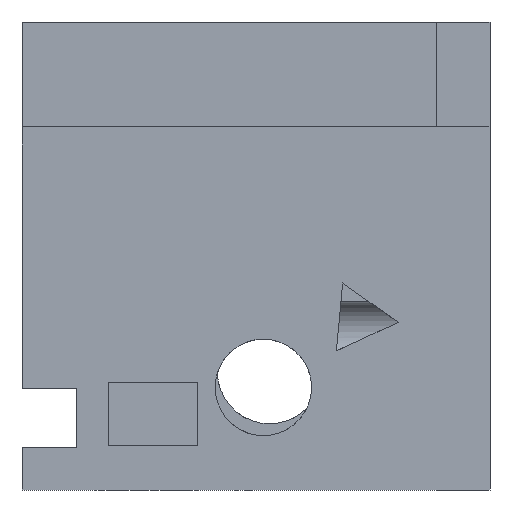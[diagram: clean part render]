
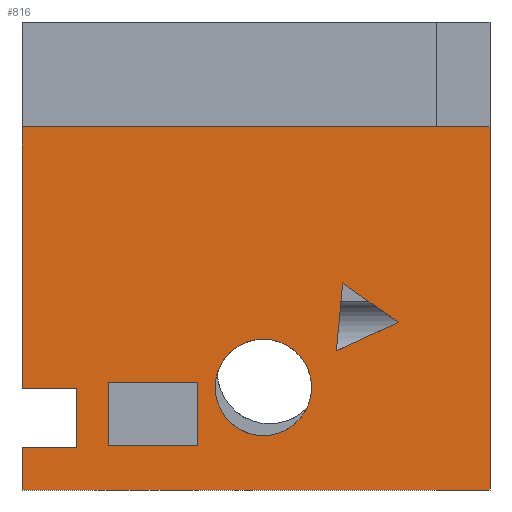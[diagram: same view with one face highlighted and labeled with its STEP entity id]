
A CAD part, front view. The second image highlights one B-rep face of the part: STEP entity #816.
In plain terms, the highlighted planar face has unit normal (0, -1, 0).
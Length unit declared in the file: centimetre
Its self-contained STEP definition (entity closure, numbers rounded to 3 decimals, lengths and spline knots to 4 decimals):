
#6 = DIRECTION ( 'NONE',  ( -1., 0., 0. ) ) ;
#20 = VERTEX_POINT ( 'NONE', #884 ) ;
#25 = EDGE_CURVE ( 'NONE', #1616, #235, #212, .T. ) ;
#36 = DIRECTION ( 'NONE',  ( 0., -1., 0. ) ) ;
#40 = CARTESIAN_POINT ( 'NONE',  ( 1000., 0., 1000. ) ) ;
#41 = LINE ( 'NONE', #197, #540 ) ;
#42 = VECTOR ( 'NONE', #483, 100. ) ;
#59 = CARTESIAN_POINT ( 'NONE',  ( 671.7861, 0., 297.2088 ) ) ;
#78 = VERTEX_POINT ( 'NONE', #594 ) ;
#84 = LINE ( 'NONE', #646, #627 ) ;
#106 = ORIENTED_EDGE ( 'NONE', *, *, #1151, .F. ) ;
#121 = ORIENTED_EDGE ( 'NONE', *, *, #538, .T. ) ;
#129 = VERTEX_POINT ( 'NONE', #472 ) ;
#137 = EDGE_CURVE ( 'NONE', #688, #1069, #1022, .T. ) ;
#148 = ORIENTED_EDGE ( 'NONE', *, *, #162, .F. ) ;
#162 = EDGE_CURVE ( 'NONE', #990, #1413, #903, .T. ) ;
#164 = VECTOR ( 'NONE', #1614, 100. ) ;
#183 = LINE ( 'NONE', #1736, #1355 ) ;
#193 = EDGE_CURVE ( 'NONE', #550, #688, #183, .T. ) ;
#197 = CARTESIAN_POINT ( 'NONE',  ( 184.0551, 0., 230.3611 ) ) ;
#206 = DIRECTION ( 'NONE',  ( -0.092, 0., -0.996 ) ) ;
#208 = EDGE_CURVE ( 'NONE', #1281, #20, #41, .T. ) ;
#212 = CIRCLE ( 'NONE', #336, 103.0713 ) ;
#232 = ORIENTED_EDGE ( 'NONE', *, *, #1261, .T. ) ;
#235 = VERTEX_POINT ( 'NONE', #1739 ) ;
#246 = ORIENTED_EDGE ( 'NONE', *, *, #193, .T. ) ;
#260 = EDGE_CURVE ( 'NONE', #1069, #1118, #893, .T. ) ;
#303 = DIRECTION ( 'NONE',  ( 1., 0., 0. ) ) ;
#310 = DIRECTION ( 'NONE',  ( 0., -1., 0. ) ) ;
#329 = CARTESIAN_POINT ( 'NONE',  ( 0., 0., 1000. ) ) ;
#336 = AXIS2_PLACEMENT_3D ( 'NONE', #1562, #36, #1163 ) ;
#343 = CARTESIAN_POINT ( 'NONE',  ( 0., 0., 0. ) ) ;
#357 = VERTEX_POINT ( 'NONE', #704 ) ;
#382 = CARTESIAN_POINT ( 'NONE',  ( 671.7861, 0., 297.2088 ) ) ;
#395 = VECTOR ( 'NONE', #1815, 100. ) ;
#413 = DIRECTION ( 'NONE',  ( 0., 0., 1. ) ) ;
#435 = VECTOR ( 'NONE', #206, 100. ) ;
#461 = AXIS2_PLACEMENT_3D ( 'NONE', #1820, #552, #413 ) ;
#472 = CARTESIAN_POINT ( 'NONE',  ( 116.2339, 0., 89.9781 ) ) ;
#483 = DIRECTION ( 'NONE',  ( 1., 0., 0. ) ) ;
#492 = LINE ( 'NONE', #1467, #435 ) ;
#538 = EDGE_CURVE ( 'NONE', #129, #1371, #1241, .T. ) ;
#540 = VECTOR ( 'NONE', #1292, 100. ) ;
#548 = CARTESIAN_POINT ( 'NONE',  ( 1000., 0., 775.7278 ) ) ;
#550 = VERTEX_POINT ( 'NONE', #548 ) ;
#552 = DIRECTION ( 'NONE',  ( 0., 1., 0. ) ) ;
#577 = LINE ( 'NONE', #1290, #1769 ) ;
#594 = CARTESIAN_POINT ( 'NONE',  ( 804.1267, 0., 358.1922 ) ) ;
#605 = CARTESIAN_POINT ( 'NONE',  ( 685.1432, 0., 442.3108 ) ) ;
#610 = LINE ( 'NONE', #40, #797 ) ;
#621 = LINE ( 'NONE', #1755, #164 ) ;
#627 = VECTOR ( 'NONE', #1211, 100. ) ;
#632 = LINE ( 'NONE', #778, #1543 ) ;
#646 = CARTESIAN_POINT ( 'NONE',  ( 804.1267, 0., 358.1922 ) ) ;
#671 = EDGE_CURVE ( 'NONE', #966, #357, #577, .T. ) ;
#688 = VERTEX_POINT ( 'NONE', #1713 ) ;
#699 = FACE_BOUND ( 'NONE', #948, .T. ) ;
#704 = CARTESIAN_POINT ( 'NONE',  ( 1000., 0., 0. ) ) ;
#718 = VECTOR ( 'NONE', #1043, 100. ) ;
#736 = EDGE_CURVE ( 'NONE', #235, #1616, #1598, .T. ) ;
#743 = DIRECTION ( 'NONE',  ( -1., 0., 0. ) ) ;
#758 = DIRECTION ( 'NONE',  ( 0., 0., -1. ) ) ;
#769 = ORIENTED_EDGE ( 'NONE', *, *, #137, .T. ) ;
#778 = CARTESIAN_POINT ( 'NONE',  ( 184.0551, 0., 95.36 ) ) ;
#781 = DIRECTION ( 'NONE',  ( 1., 0., 0. ) ) ;
#795 = ORIENTED_EDGE ( 'NONE', *, *, #260, .T. ) ;
#797 = VECTOR ( 'NONE', #758, 100. ) ;
#816 = ADVANCED_FACE ( 'NONE', ( #699, #1382, #1531, #1249 ), #1809, .F. ) ;
#851 = CARTESIAN_POINT ( 'NONE',  ( 374.3072, 0., 95.36 ) ) ;
#873 = VECTOR ( 'NONE', #1336, 100. ) ;
#884 = CARTESIAN_POINT ( 'NONE',  ( 184.0551, 0., 230.3611 ) ) ;
#889 = EDGE_CURVE ( 'NONE', #550, #357, #610, .T. ) ;
#893 = LINE ( 'NONE', #1460, #1716 ) ;
#903 = LINE ( 'NONE', #1730, #42 ) ;
#916 = VERTEX_POINT ( 'NONE', #59 ) ;
#920 = DIRECTION ( 'NONE',  ( 0., 0., -1. ) ) ;
#925 = CARTESIAN_POINT ( 'NONE',  ( 0., 0., 216.749 ) ) ;
#945 = ORIENTED_EDGE ( 'NONE', *, *, #25, .F. ) ;
#948 = EDGE_LOOP ( 'NONE', ( #148, #952, #999, #1125 ) ) ;
#952 = ORIENTED_EDGE ( 'NONE', *, *, #1220, .F. ) ;
#959 = CARTESIAN_POINT ( 'NONE',  ( 0., 0., 89.9781 ) ) ;
#961 = ORIENTED_EDGE ( 'NONE', *, *, #1561, .F. ) ;
#966 = VERTEX_POINT ( 'NONE', #343 ) ;
#990 = VERTEX_POINT ( 'NONE', #1291 ) ;
#992 = LINE ( 'NONE', #1137, #395 ) ;
#999 = ORIENTED_EDGE ( 'NONE', *, *, #208, .F. ) ;
#1014 = EDGE_CURVE ( 'NONE', #1118, #129, #621, .T. ) ;
#1022 = LINE ( 'NONE', #329, #718 ) ;
#1043 = DIRECTION ( 'NONE',  ( 0., 0., -1. ) ) ;
#1056 = LINE ( 'NONE', #382, #873 ) ;
#1069 = VERTEX_POINT ( 'NONE', #925 ) ;
#1100 = AXIS2_PLACEMENT_3D ( 'NONE', #1173, #310, #1734 ) ;
#1111 = ORIENTED_EDGE ( 'NONE', *, *, #671, .T. ) ;
#1118 = VERTEX_POINT ( 'NONE', #1749 ) ;
#1125 = ORIENTED_EDGE ( 'NONE', *, *, #1525, .F. ) ;
#1126 = ORIENTED_EDGE ( 'NONE', *, *, #736, .F. ) ;
#1137 = CARTESIAN_POINT ( 'NONE',  ( 374.3072, 0., 95.36 ) ) ;
#1150 = EDGE_CURVE ( 'NONE', #916, #78, #1056, .T. ) ;
#1151 = EDGE_CURVE ( 'NONE', #1673, #916, #492, .T. ) ;
#1163 = DIRECTION ( 'NONE',  ( 0., 0., -1. ) ) ;
#1171 = CARTESIAN_POINT ( 'NONE',  ( 374.3072, 0., 230.3611 ) ) ;
#1173 = CARTESIAN_POINT ( 'NONE',  ( 515.7129, 0., 219.205 ) ) ;
#1190 = LINE ( 'NONE', #1617, #1478 ) ;
#1211 = DIRECTION ( 'NONE',  ( -0.817, 0., 0.577 ) ) ;
#1220 = EDGE_CURVE ( 'NONE', #20, #990, #632, .T. ) ;
#1241 = LINE ( 'NONE', #959, #1693 ) ;
#1249 = FACE_OUTER_BOUND ( 'NONE', #1485, .T. ) ;
#1261 = EDGE_CURVE ( 'NONE', #1371, #966, #1190, .T. ) ;
#1281 = VERTEX_POINT ( 'NONE', #1171 ) ;
#1290 = CARTESIAN_POINT ( 'NONE',  ( 0., 0., 0. ) ) ;
#1291 = CARTESIAN_POINT ( 'NONE',  ( 184.0551, 0., 95.36 ) ) ;
#1292 = DIRECTION ( 'NONE',  ( -1., 0., 0. ) ) ;
#1336 = DIRECTION ( 'NONE',  ( 0.908, 0., 0.419 ) ) ;
#1355 = VECTOR ( 'NONE', #743, 100. ) ;
#1371 = VERTEX_POINT ( 'NONE', #1744 ) ;
#1374 = EDGE_LOOP ( 'NONE', ( #945, #1126 ) ) ;
#1382 = FACE_BOUND ( 'NONE', #1533, .T. ) ;
#1413 = VERTEX_POINT ( 'NONE', #851 ) ;
#1427 = CARTESIAN_POINT ( 'NONE',  ( 515.7129, 0., 116.1338 ) ) ;
#1460 = CARTESIAN_POINT ( 'NONE',  ( 0., 0., 216.749 ) ) ;
#1467 = CARTESIAN_POINT ( 'NONE',  ( 685.1432, 0., 442.3108 ) ) ;
#1478 = VECTOR ( 'NONE', #1612, 100. ) ;
#1485 = EDGE_LOOP ( 'NONE', ( #1756, #121, #232, #1111, #1646, #246, #769, #795 ) ) ;
#1525 = EDGE_CURVE ( 'NONE', #1413, #1281, #992, .T. ) ;
#1531 = FACE_BOUND ( 'NONE', #1374, .T. ) ;
#1533 = EDGE_LOOP ( 'NONE', ( #961, #1634, #106 ) ) ;
#1543 = VECTOR ( 'NONE', #920, 100. ) ;
#1561 = EDGE_CURVE ( 'NONE', #78, #1673, #84, .T. ) ;
#1562 = CARTESIAN_POINT ( 'NONE',  ( 515.7129, 0., 219.205 ) ) ;
#1598 = CIRCLE ( 'NONE', #1100, 103.0713 ) ;
#1612 = DIRECTION ( 'NONE',  ( 0., 0., -1. ) ) ;
#1614 = DIRECTION ( 'NONE',  ( 0., 0., -1. ) ) ;
#1616 = VERTEX_POINT ( 'NONE', #1427 ) ;
#1617 = CARTESIAN_POINT ( 'NONE',  ( 0., 0., 1000. ) ) ;
#1634 = ORIENTED_EDGE ( 'NONE', *, *, #1150, .F. ) ;
#1646 = ORIENTED_EDGE ( 'NONE', *, *, #889, .F. ) ;
#1673 = VERTEX_POINT ( 'NONE', #605 ) ;
#1693 = VECTOR ( 'NONE', #6, 100. ) ;
#1713 = CARTESIAN_POINT ( 'NONE',  ( 0., 0., 775.7278 ) ) ;
#1716 = VECTOR ( 'NONE', #781, 100. ) ;
#1730 = CARTESIAN_POINT ( 'NONE',  ( 184.0551, 0., 95.36 ) ) ;
#1734 = DIRECTION ( 'NONE',  ( 0., 0., -1. ) ) ;
#1736 = CARTESIAN_POINT ( 'NONE',  ( 1000., 0., 775.7278 ) ) ;
#1739 = CARTESIAN_POINT ( 'NONE',  ( 515.7129, 0., 322.2763 ) ) ;
#1744 = CARTESIAN_POINT ( 'NONE',  ( 0., 0., 89.9781 ) ) ;
#1749 = CARTESIAN_POINT ( 'NONE',  ( 116.2339, 0., 216.749 ) ) ;
#1755 = CARTESIAN_POINT ( 'NONE',  ( 116.2339, 0., 89.9781 ) ) ;
#1756 = ORIENTED_EDGE ( 'NONE', *, *, #1014, .T. ) ;
#1769 = VECTOR ( 'NONE', #303, 100. ) ;
#1809 = PLANE ( 'NONE',  #461 ) ;
#1815 = DIRECTION ( 'NONE',  ( 0., 0., 1. ) ) ;
#1820 = CARTESIAN_POINT ( 'NONE',  ( 0., 0., 1000. ) ) ;
